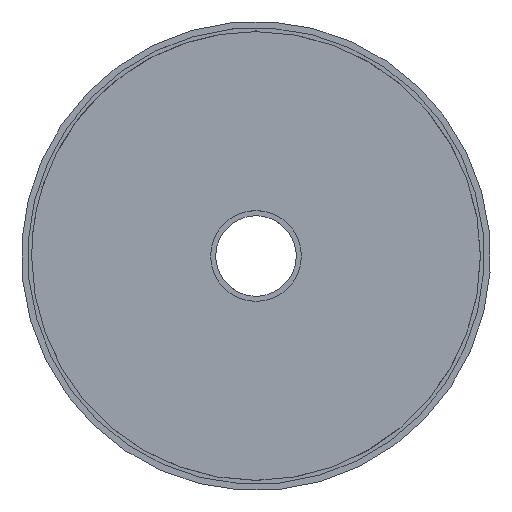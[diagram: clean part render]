
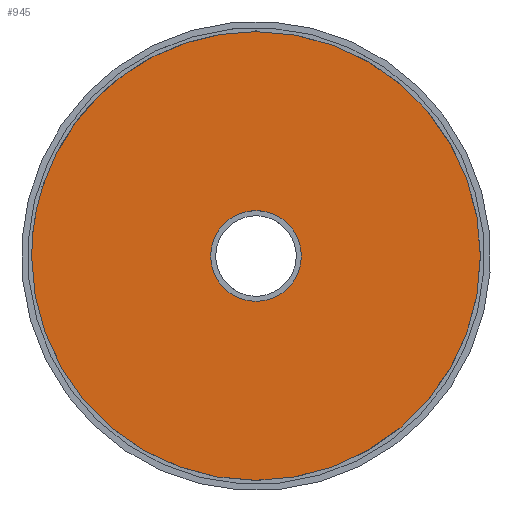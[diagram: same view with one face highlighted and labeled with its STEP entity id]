
A CAD part, top view. The second image highlights one B-rep face of the part: STEP entity #945.
In plain terms, the highlighted planar face has unit normal (0, 0, 1).
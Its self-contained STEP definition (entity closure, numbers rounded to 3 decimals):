
#26=FACE_BOUND('',#136,.T.);
#35=PLANE('',#1027);
#81=FACE_OUTER_BOUND('',#135,.T.);
#135=EDGE_LOOP('',(#676,#677,#678,#679,#680));
#136=EDGE_LOOP('',(#681));
#194=CIRCLE('',#1019,0.025);
#195=CIRCLE('',#1022,0.025);
#196=CIRCLE('',#1028,8.65);
#197=CIRCLE('',#1029,8.65);
#198=CIRCLE('',#1030,8.65);
#199=CIRCLE('',#1031,1.75);
#426=VERTEX_POINT('',#1390);
#430=VERTEX_POINT('',#1398);
#431=VERTEX_POINT('',#1426);
#433=VERTEX_POINT('',#1429);
#437=VERTEX_POINT('',#1463);
#438=VERTEX_POINT('',#1467);
#523=EDGE_CURVE('',#430,#426,#194,.T.);
#526=EDGE_CURVE('',#431,#433,#195,.T.);
#532=EDGE_CURVE('',#430,#437,#196,.T.);
#533=EDGE_CURVE('',#437,#433,#197,.T.);
#534=EDGE_CURVE('',#431,#426,#198,.T.);
#535=EDGE_CURVE('',#438,#438,#199,.T.);
#676=ORIENTED_EDGE('',*,*,#532,.T.);
#677=ORIENTED_EDGE('',*,*,#533,.T.);
#678=ORIENTED_EDGE('',*,*,#526,.F.);
#679=ORIENTED_EDGE('',*,*,#534,.T.);
#680=ORIENTED_EDGE('',*,*,#523,.F.);
#681=ORIENTED_EDGE('',*,*,#535,.T.);
#945=ADVANCED_FACE('',(#81,#26),#35,.T.);
#1019=AXIS2_PLACEMENT_3D('',#1400,#1118,#1119);
#1022=AXIS2_PLACEMENT_3D('',#1430,#1125,#1126);
#1027=AXIS2_PLACEMENT_3D('',#1462,#1136,#1137);
#1028=AXIS2_PLACEMENT_3D('',#1464,#1138,#1139);
#1029=AXIS2_PLACEMENT_3D('',#1465,#1140,#1141);
#1030=AXIS2_PLACEMENT_3D('',#1466,#1142,#1143);
#1031=AXIS2_PLACEMENT_3D('',#1468,#1144,#1145);
#1118=DIRECTION('center_axis',(0.,0.,-1.));
#1119=DIRECTION('ref_axis',(-0.809,-0.588,0.));
#1125=DIRECTION('center_axis',(0.,0.,-1.));
#1126=DIRECTION('ref_axis',(0.809,0.588,0.));
#1136=DIRECTION('center_axis',(0.,0.,1.));
#1137=DIRECTION('ref_axis',(-1.,0.,0.));
#1138=DIRECTION('center_axis',(0.,0.,1.));
#1139=DIRECTION('ref_axis',(1.,0.,0.));
#1140=DIRECTION('center_axis',(0.,0.,1.));
#1141=DIRECTION('ref_axis',(1.,0.,0.));
#1142=DIRECTION('center_axis',(0.,0.,1.));
#1143=DIRECTION('ref_axis',(1.,0.,0.));
#1144=DIRECTION('center_axis',(0.,0.,-1.));
#1145=DIRECTION('ref_axis',(1.,0.,0.));
#1390=CARTESIAN_POINT('',(-8.219,2.697,2.69));
#1398=CARTESIAN_POINT('',(-8.234,2.649,2.69));
#1400=CARTESIAN_POINT('Origin',(-8.227,2.673,2.69));
#1426=CARTESIAN_POINT('',(-0.025,8.65,2.69));
#1429=CARTESIAN_POINT('',(0.025,8.65,2.69));
#1430=CARTESIAN_POINT('Origin',(0.,8.65,2.69));
#1462=CARTESIAN_POINT('Origin',(0.,0.,
2.69));
#1463=CARTESIAN_POINT('',(-8.65,0.,2.69));
#1464=CARTESIAN_POINT('Origin',(0.,0.,2.69));
#1465=CARTESIAN_POINT('Origin',(0.,0.,2.69));
#1466=CARTESIAN_POINT('Origin',(0.,0.,2.69));
#1467=CARTESIAN_POINT('',(-1.75,0.,2.69));
#1468=CARTESIAN_POINT('Origin',(0.,0.,2.69));
